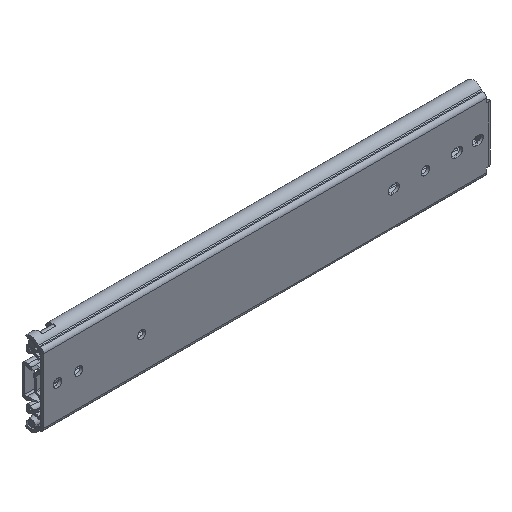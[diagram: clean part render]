
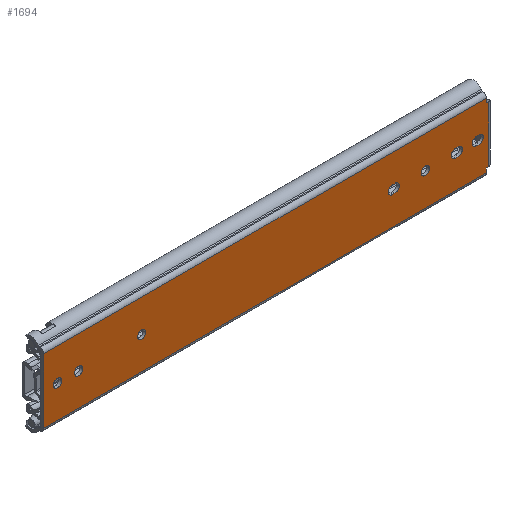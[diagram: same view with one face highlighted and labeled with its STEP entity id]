
A CAD part, isometric view. The second image highlights one B-rep face of the part: STEP entity #1694.
In plain terms, the highlighted planar face has unit normal (0, -1, 0).
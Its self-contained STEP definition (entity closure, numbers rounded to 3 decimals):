
#19=DIRECTION('',(0.,0.,-1.));
#20=VECTOR('',#19,58.586);
#21=CARTESIAN_POINT('',(0.,0.,29.293));
#22=LINE('',#21,#20);
#250=CARTESIAN_POINT('',(12.7,0.,0.));
#251=DIRECTION('',(0.,1.,0.));
#252=DIRECTION('',(1.,0.,0.));
#253=AXIS2_PLACEMENT_3D('',#250,#251,#252);
#255=CARTESIAN_POINT('',(12.7,0.,0.));
#256=DIRECTION('',(0.,1.,0.));
#257=DIRECTION('',(-1.,0.,0.));
#258=AXIS2_PLACEMENT_3D('',#255,#256,#257);
#260=CARTESIAN_POINT('',(88.9,0.,0.));
#261=DIRECTION('',(0.,1.,0.));
#262=DIRECTION('',(1.,0.,0.));
#263=AXIS2_PLACEMENT_3D('',#260,#261,#262);
#265=CARTESIAN_POINT('',(88.9,0.,0.));
#266=DIRECTION('',(0.,1.,0.));
#267=DIRECTION('',(-1.,0.,0.));
#268=AXIS2_PLACEMENT_3D('',#265,#266,#267);
#270=CARTESIAN_POINT('',(346.1,0.,0.));
#271=DIRECTION('',(0.,1.,0.));
#272=DIRECTION('',(1.,0.,0.));
#273=AXIS2_PLACEMENT_3D('',#270,#271,#272);
#275=CARTESIAN_POINT('',(346.1,0.,0.));
#276=DIRECTION('',(0.,1.,0.));
#277=DIRECTION('',(-1.,0.,0.));
#278=AXIS2_PLACEMENT_3D('',#275,#276,#277);
#280=CARTESIAN_POINT('',(316.25,0.,0.));
#281=DIRECTION('',(0.,1.,0.));
#282=DIRECTION('',(0.,0.,-1.));
#283=AXIS2_PLACEMENT_3D('',#280,#281,#282);
#285=DIRECTION('',(-1.,0.,0.));
#286=VECTOR('',#285,2.5);
#287=CARTESIAN_POINT('',(318.75,0.,-3.75));
#288=LINE('',#287,#286);
#289=CARTESIAN_POINT('',(318.75,0.,0.));
#290=DIRECTION('',(0.,1.,0.));
#291=DIRECTION('',(0.,0.,1.));
#292=AXIS2_PLACEMENT_3D('',#289,#290,#291);
#294=DIRECTION('',(1.,0.,0.));
#295=VECTOR('',#294,2.5);
#296=CARTESIAN_POINT('',(316.25,0.,3.75));
#297=LINE('',#296,#295);
#298=CARTESIAN_POINT('',(373.45,0.,0.));
#299=DIRECTION('',(0.,1.,0.));
#300=DIRECTION('',(0.,0.,-1.));
#301=AXIS2_PLACEMENT_3D('',#298,#299,#300);
#303=DIRECTION('',(-1.,0.,0.));
#304=VECTOR('',#303,2.5);
#305=CARTESIAN_POINT('',(375.95,0.,-3.75));
#306=LINE('',#305,#304);
#307=CARTESIAN_POINT('',(375.95,0.,0.));
#308=DIRECTION('',(0.,1.,0.));
#309=DIRECTION('',(0.,0.,1.));
#310=AXIS2_PLACEMENT_3D('',#307,#308,#309);
#312=DIRECTION('',(1.,0.,0.));
#313=VECTOR('',#312,2.5);
#314=CARTESIAN_POINT('',(373.45,0.,3.75));
#315=LINE('',#314,#313);
#316=CARTESIAN_POINT('',(392.45,0.,0.));
#317=DIRECTION('',(0.,1.,0.));
#318=DIRECTION('',(0.,0.,-1.));
#319=AXIS2_PLACEMENT_3D('',#316,#317,#318);
#321=DIRECTION('',(-1.,0.,0.));
#322=VECTOR('',#321,2.5);
#323=CARTESIAN_POINT('',(394.95,0.,-3.75));
#324=LINE('',#323,#322);
#325=CARTESIAN_POINT('',(394.95,0.,0.));
#326=DIRECTION('',(0.,1.,0.));
#327=DIRECTION('',(0.,0.,1.));
#328=AXIS2_PLACEMENT_3D('',#325,#326,#327);
#330=DIRECTION('',(1.,0.,0.));
#331=VECTOR('',#330,2.5);
#332=CARTESIAN_POINT('',(392.45,0.,3.75));
#333=LINE('',#332,#331);
#334=CARTESIAN_POINT('',(31.8,0.,0.));
#335=DIRECTION('',(0.,1.,0.));
#336=DIRECTION('',(1.,0.,0.));
#337=AXIS2_PLACEMENT_3D('',#334,#335,#336);
#339=CARTESIAN_POINT('',(31.8,0.,0.));
#340=DIRECTION('',(0.,1.,0.));
#341=DIRECTION('',(-1.,0.,0.));
#342=AXIS2_PLACEMENT_3D('',#339,#340,#341);
#344=DIRECTION('',(-1.,0.,0.));
#345=VECTOR('',#344,2.);
#346=CARTESIAN_POINT('',(403.4,0.,-25.5));
#347=LINE('',#346,#345);
#348=DIRECTION('',(-1.,0.,0.));
#349=VECTOR('',#348,401.4);
#350=CARTESIAN_POINT('',(401.4,0.,-29.293));
#351=LINE('',#350,#349);
#352=DIRECTION('',(-1.,0.,0.));
#353=VECTOR('',#352,401.4);
#354=CARTESIAN_POINT('',(401.4,0.,29.293));
#355=LINE('',#354,#353);
#356=DIRECTION('',(-1.,0.,0.));
#357=VECTOR('',#356,2.);
#358=CARTESIAN_POINT('',(403.4,0.,25.5));
#359=LINE('',#358,#357);
#452=DIRECTION('',(0.,0.,1.));
#453=VECTOR('',#452,51.);
#454=CARTESIAN_POINT('',(403.4,0.,-25.5));
#455=LINE('',#454,#453);
#562=DIRECTION('',(0.,0.,-1.));
#563=VECTOR('',#562,3.793);
#564=CARTESIAN_POINT('',(401.4,0.,29.293));
#565=LINE('',#564,#563);
#598=DIRECTION('',(0.,0.,-1.));
#599=VECTOR('',#598,3.793);
#600=CARTESIAN_POINT('',(401.4,0.,-25.5));
#601=LINE('',#600,#599);
#1109=CARTESIAN_POINT('',(0.,0.,29.293));
#1111=VERTEX_POINT('',#1109);
#1114=CARTESIAN_POINT('',(0.,0.,-29.293));
#1116=VERTEX_POINT('',#1114);
#1205=CARTESIAN_POINT('',(16.45,0.,0.));
#1206=CARTESIAN_POINT('',(8.95,0.,0.));
#1207=VERTEX_POINT('',#1205);
#1208=VERTEX_POINT('',#1206);
#1209=CARTESIAN_POINT('',(92.65,0.,0.));
#1210=CARTESIAN_POINT('',(85.15,0.,0.));
#1211=VERTEX_POINT('',#1209);
#1212=VERTEX_POINT('',#1210);
#1213=CARTESIAN_POINT('',(349.85,0.,0.));
#1214=CARTESIAN_POINT('',(342.35,0.,0.));
#1215=VERTEX_POINT('',#1213);
#1216=VERTEX_POINT('',#1214);
#1217=CARTESIAN_POINT('',(316.25,0.,-3.75));
#1218=CARTESIAN_POINT('',(316.25,0.,3.75));
#1219=VERTEX_POINT('',#1217);
#1220=VERTEX_POINT('',#1218);
#1221=CARTESIAN_POINT('',(318.75,0.,3.75));
#1222=VERTEX_POINT('',#1221);
#1223=CARTESIAN_POINT('',(318.75,0.,-3.75));
#1224=VERTEX_POINT('',#1223);
#1225=CARTESIAN_POINT('',(373.45,0.,-3.75));
#1226=CARTESIAN_POINT('',(373.45,0.,3.75));
#1227=VERTEX_POINT('',#1225);
#1228=VERTEX_POINT('',#1226);
#1229=CARTESIAN_POINT('',(375.95,0.,3.75));
#1230=VERTEX_POINT('',#1229);
#1231=CARTESIAN_POINT('',(375.95,0.,-3.75));
#1232=VERTEX_POINT('',#1231);
#1233=CARTESIAN_POINT('',(392.45,0.,-3.75));
#1234=CARTESIAN_POINT('',(392.45,0.,3.75));
#1235=VERTEX_POINT('',#1233);
#1236=VERTEX_POINT('',#1234);
#1237=CARTESIAN_POINT('',(394.95,0.,3.75));
#1238=VERTEX_POINT('',#1237);
#1239=CARTESIAN_POINT('',(394.95,0.,-3.75));
#1240=VERTEX_POINT('',#1239);
#1303=CARTESIAN_POINT('',(401.4,0.,29.293));
#1304=VERTEX_POINT('',#1303);
#1305=CARTESIAN_POINT('',(401.4,0.,-29.293));
#1306=VERTEX_POINT('',#1305);
#1309=CARTESIAN_POINT('',(403.4,0.,25.5));
#1310=CARTESIAN_POINT('',(401.4,0.,25.5));
#1311=VERTEX_POINT('',#1309);
#1312=VERTEX_POINT('',#1310);
#1313=CARTESIAN_POINT('',(403.4,0.,-25.5));
#1314=CARTESIAN_POINT('',(401.4,0.,-25.5));
#1315=VERTEX_POINT('',#1313);
#1316=VERTEX_POINT('',#1314);
#1381=CARTESIAN_POINT('',(35.55,0.,0.));
#1382=CARTESIAN_POINT('',(28.05,0.,0.));
#1383=VERTEX_POINT('',#1381);
#1384=VERTEX_POINT('',#1382);
#1619=CARTESIAN_POINT('',(0.,0.,32.5));
#1620=DIRECTION('',(0.,-1.,0.));
#1621=DIRECTION('',(0.,0.,-1.));
#1622=AXIS2_PLACEMENT_3D('',#1619,#1620,#1621);
#1623=PLANE('',#1622);
#1625=ORIENTED_EDGE('',*,*,#1624,.F.);
#1627=ORIENTED_EDGE('',*,*,#1626,.T.);
#1629=ORIENTED_EDGE('',*,*,#1628,.T.);
#1631=ORIENTED_EDGE('',*,*,#1630,.T.);
#1632=ORIENTED_EDGE('',*,*,#1404,.F.);
#1634=ORIENTED_EDGE('',*,*,#1633,.F.);
#1636=ORIENTED_EDGE('',*,*,#1635,.T.);
#1638=ORIENTED_EDGE('',*,*,#1637,.F.);
#1639=EDGE_LOOP('',(#1625,#1627,#1629,#1631,#1632,#1634,#1636,#1638));
#1640=FACE_OUTER_BOUND('',#1639,.F.);
#1642=ORIENTED_EDGE('',*,*,#1641,.F.);
#1644=ORIENTED_EDGE('',*,*,#1643,.F.);
#1645=EDGE_LOOP('',(#1642,#1644));
#1646=FACE_BOUND('',#1645,.F.);
#1648=ORIENTED_EDGE('',*,*,#1647,.F.);
#1650=ORIENTED_EDGE('',*,*,#1649,.F.);
#1651=EDGE_LOOP('',(#1648,#1650));
#1652=FACE_BOUND('',#1651,.F.);
#1654=ORIENTED_EDGE('',*,*,#1653,.F.);
#1656=ORIENTED_EDGE('',*,*,#1655,.F.);
#1658=ORIENTED_EDGE('',*,*,#1657,.F.);
#1660=ORIENTED_EDGE('',*,*,#1659,.F.);
#1661=EDGE_LOOP('',(#1654,#1656,#1658,#1660));
#1662=FACE_BOUND('',#1661,.F.);
#1664=ORIENTED_EDGE('',*,*,#1663,.F.);
#1666=ORIENTED_EDGE('',*,*,#1665,.F.);
#1668=ORIENTED_EDGE('',*,*,#1667,.F.);
#1670=ORIENTED_EDGE('',*,*,#1669,.F.);
#1671=EDGE_LOOP('',(#1664,#1666,#1668,#1670));
#1672=FACE_BOUND('',#1671,.F.);
#1674=ORIENTED_EDGE('',*,*,#1673,.F.);
#1676=ORIENTED_EDGE('',*,*,#1675,.F.);
#1678=ORIENTED_EDGE('',*,*,#1677,.F.);
#1680=ORIENTED_EDGE('',*,*,#1679,.F.);
#1681=EDGE_LOOP('',(#1674,#1676,#1678,#1680));
#1682=FACE_BOUND('',#1681,.F.);
#1684=ORIENTED_EDGE('',*,*,#1683,.F.);
#1686=ORIENTED_EDGE('',*,*,#1685,.F.);
#1687=EDGE_LOOP('',(#1684,#1686));
#1688=FACE_BOUND('',#1687,.F.);
#1689=ORIENTED_EDGE('',*,*,#1609,.F.);
#1691=ORIENTED_EDGE('',*,*,#1690,.F.);
#1692=EDGE_LOOP('',(#1689,#1691));
#1693=FACE_BOUND('',#1692,.F.);
#254=CIRCLE('',#253,3.75);
#259=CIRCLE('',#258,3.75);
#264=CIRCLE('',#263,3.75);
#269=CIRCLE('',#268,3.75);
#274=CIRCLE('',#273,3.75);
#279=CIRCLE('',#278,3.75);
#284=CIRCLE('',#283,3.75);
#293=CIRCLE('',#292,3.75);
#302=CIRCLE('',#301,3.75);
#311=CIRCLE('',#310,3.75);
#320=CIRCLE('',#319,3.75);
#329=CIRCLE('',#328,3.75);
#338=CIRCLE('',#337,3.75);
#343=CIRCLE('',#342,3.75);
#1404=EDGE_CURVE('',#1111,#1116,#22,.T.);
#1609=EDGE_CURVE('',#1207,#1208,#254,.T.);
#1624=EDGE_CURVE('',#1315,#1311,#455,.T.);
#1626=EDGE_CURVE('',#1315,#1316,#347,.T.);
#1628=EDGE_CURVE('',#1316,#1306,#601,.T.);
#1630=EDGE_CURVE('',#1306,#1116,#351,.T.);
#1633=EDGE_CURVE('',#1304,#1111,#355,.T.);
#1635=EDGE_CURVE('',#1304,#1312,#565,.T.);
#1637=EDGE_CURVE('',#1311,#1312,#359,.T.);
#1641=EDGE_CURVE('',#1211,#1212,#264,.T.);
#1643=EDGE_CURVE('',#1212,#1211,#269,.T.);
#1647=EDGE_CURVE('',#1215,#1216,#274,.T.);
#1649=EDGE_CURVE('',#1216,#1215,#279,.T.);
#1653=EDGE_CURVE('',#1219,#1220,#284,.T.);
#1655=EDGE_CURVE('',#1224,#1219,#288,.T.);
#1657=EDGE_CURVE('',#1222,#1224,#293,.T.);
#1659=EDGE_CURVE('',#1220,#1222,#297,.T.);
#1663=EDGE_CURVE('',#1227,#1228,#302,.T.);
#1665=EDGE_CURVE('',#1232,#1227,#306,.T.);
#1667=EDGE_CURVE('',#1230,#1232,#311,.T.);
#1669=EDGE_CURVE('',#1228,#1230,#315,.T.);
#1673=EDGE_CURVE('',#1235,#1236,#320,.T.);
#1675=EDGE_CURVE('',#1240,#1235,#324,.T.);
#1677=EDGE_CURVE('',#1238,#1240,#329,.T.);
#1679=EDGE_CURVE('',#1236,#1238,#333,.T.);
#1683=EDGE_CURVE('',#1383,#1384,#338,.T.);
#1685=EDGE_CURVE('',#1384,#1383,#343,.T.);
#1690=EDGE_CURVE('',#1208,#1207,#259,.T.);
#1694=ADVANCED_FACE('',(#1640,#1646,#1652,#1662,#1672,#1682,#1688,#1693),#1623,
.T.);
